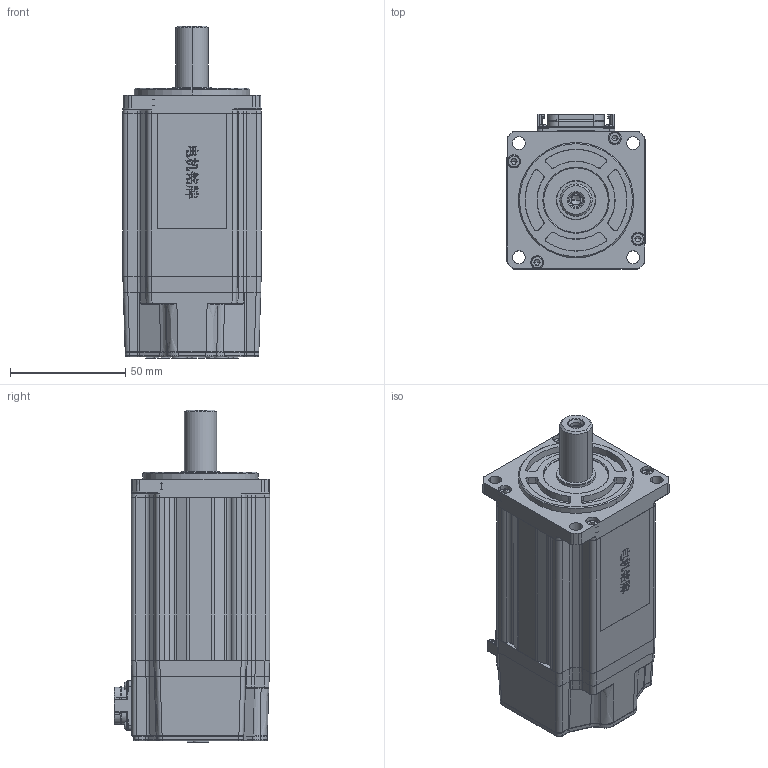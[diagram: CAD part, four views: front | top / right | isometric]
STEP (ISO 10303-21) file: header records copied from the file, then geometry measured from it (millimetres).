
FILE_DESCRIPTION (( 'STEP AP203' ), '1' );
FILE_NAME ('MC20-060-3L30-N201-1¡õCL-NNNN.STEP', '2026-04-19T15:11:08', ( '' ), ( '' ), 'SwSTEP 2.0', 'SolidWorks 2014', '' );
FILE_SCHEMA (( 'CONFIG_CONTROL_DESIGN' ));
Products named in the file (1): MC20-060-3L30-N201-1¡õCL-NNNN
Bounding box: 60 x 67.55 x 144 mm (x, y, z)
Volume: 370495.5 mm3; surface area: 72348.3 mm2
Topology: 10 solids, 14 shells, 2158 faces, 5741 edges, 3688 vertices
Faces by surface type: plane 970, cylinder 554, bspline 428, cone 170, torus 36
Entity records: 88267 total; most frequent: CARTESIAN_POINT 38469, ORIENTED_EDGE 11356, DIRECTION 8683, EDGE_CURVE 5678, VERTEX_POINT 3688, LINE 3213, VECTOR 3213, AXIS2_PLACEMENT_3D 2735
